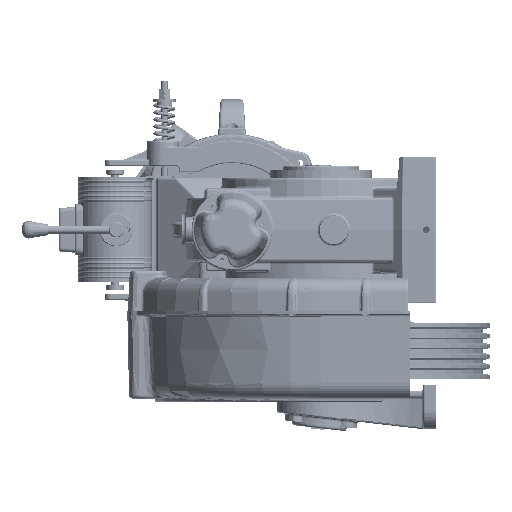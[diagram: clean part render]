
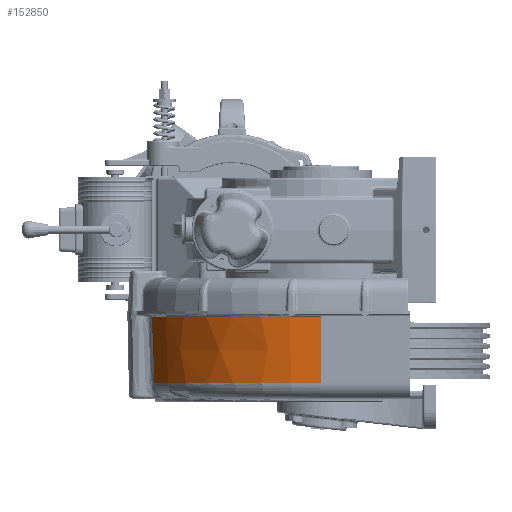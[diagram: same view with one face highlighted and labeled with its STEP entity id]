
A CAD part, left-side view. The second image highlights one B-rep face of the part: STEP entity #152850.
In plain terms, the highlighted conical face has half-angle 2.5 degrees and reference radius 285.9 mm.
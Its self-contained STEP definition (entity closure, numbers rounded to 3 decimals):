
#8751 = CARTESIAN_POINT ( 'NONE',  ( -153.396, 220.578, -152.967 ) ) ;
#45785 = ORIENTED_EDGE ( 'NONE', *, *, #361968, .T. ) ;
#48324 = CIRCLE ( 'NONE', #311560, 280.985 ) ;
#57443 = DIRECTION ( 'NONE',  ( 0., 0., -1. ) ) ;
#62272 = EDGE_CURVE ( 'NONE', #172649, #231977, #85534, .T. ) ;
#84985 = DIRECTION ( 'NONE',  ( 1., 0., 0. ) ) ;
#85534 = LINE ( 'NONE', #172510, #258539 ) ;
#108012 = CARTESIAN_POINT ( 'NONE',  ( -152.789, 219.179, -187.865 ) ) ;
#112171 = CARTESIAN_POINT ( 'NONE',  ( -49.061, -44.445, -128.228 ) ) ;
#129489 = AXIS2_PLACEMENT_3D ( 'NONE', #112171, #367987, #405956 ) ;
#145921 = DIRECTION ( 'NONE',  ( 0., 0., 1. ) ) ;
#150568 = CARTESIAN_POINT ( 'NONE',  ( -49.061, -44.445, -136.106 ) ) ;
#152850 = ADVANCED_FACE ( 'NONE', ( #304639 ), #156309, .T. ) ;
#156309 = CONICAL_SURFACE ( 'NONE', #129489, 285.9, 0.044 ) ;
#172409 = ORIENTED_EDGE ( 'NONE', *, *, #62272, .T. ) ;
#172510 = CARTESIAN_POINT ( 'NONE',  ( -334.962, -44.445, -128.228 ) ) ;
#172649 = VERTEX_POINT ( 'NONE', #352542 ) ;
#173476 = CARTESIAN_POINT ( 'NONE',  ( -49.061, -44.445, -240.8 ) ) ;
#181096 = EDGE_LOOP ( 'NONE', ( #172409, #345900, #45785, #263527 ) ) ;
#200910 = VERTEX_POINT ( 'NONE', #325289 ) ;
#201177 = CARTESIAN_POINT ( 'NONE',  ( -152.329, 218.118, -214.332 ) ) ;
#203274 = CARTESIAN_POINT ( 'NONE',  ( -151.869, 217.058, -240.8 ) ) ;
#231977 = VERTEX_POINT ( 'NONE', #414046 ) ;
#237006 = CARTESIAN_POINT ( 'NONE',  ( -153.542, 220.916, -144.537 ) ) ;
#255220 = CIRCLE ( 'NONE', #282349, 285.556 ) ;
#258539 = VECTOR ( 'NONE', #339361, 1000. ) ;
#263527 = ORIENTED_EDGE ( 'NONE', *, *, #399433, .T. ) ;
#272962 = CARTESIAN_POINT ( 'NONE',  ( -153.249, 220.24, -161.397 ) ) ;
#282349 = AXIS2_PLACEMENT_3D ( 'NONE', #150568, #57443, #84985 ) ;
#282511 = CARTESIAN_POINT ( 'NONE',  ( -153.689, 221.254, -136.106 ) ) ;
#300535 = CARTESIAN_POINT ( 'NONE',  ( -153.689, 221.254, -136.106 ) ) ;
#302459 = DIRECTION ( 'NONE',  ( -1., 0., 0. ) ) ;
#304639 = FACE_OUTER_BOUND ( 'NONE', #181096, .T. ) ;
#311560 = AXIS2_PLACEMENT_3D ( 'NONE', #173476, #145921, #302459 ) ;
#325289 = CARTESIAN_POINT ( 'NONE',  ( -151.869, 217.058, -240.8 ) ) ;
#339361 = DIRECTION ( 'NONE',  ( -0.044, 0., 0.999 ) ) ;
#345900 = ORIENTED_EDGE ( 'NONE', *, *, #369686, .T. ) ;
#352542 = CARTESIAN_POINT ( 'NONE',  ( -330.047, -44.445, -240.8 ) ) ;
#361968 = EDGE_CURVE ( 'NONE', #385660, #200910, #401218, .T. ) ;
#367987 = DIRECTION ( 'NONE',  ( 0., 0., 1. ) ) ;
#369686 = EDGE_CURVE ( 'NONE', #231977, #385660, #255220, .T. ) ;
#385660 = VERTEX_POINT ( 'NONE', #282511 ) ;
#399433 = EDGE_CURVE ( 'NONE', #200910, #172649, #48324, .T. ) ;
#401218 = B_SPLINE_CURVE_WITH_KNOTS ( 'NONE', 3,
 ( #300535, #237006, #8751, #272962, #108012, #201177, #203274 ),
 .UNSPECIFIED., .F., .F.,
 ( 4, 3, 4 ),
 ( 0.005, 0.03, 0.11 ),
 .UNSPECIFIED. ) ;
#405956 = DIRECTION ( 'NONE',  ( 1., 0., 0. ) ) ;
#414046 = CARTESIAN_POINT ( 'NONE',  ( -334.618, -44.445, -136.106 ) ) ;
